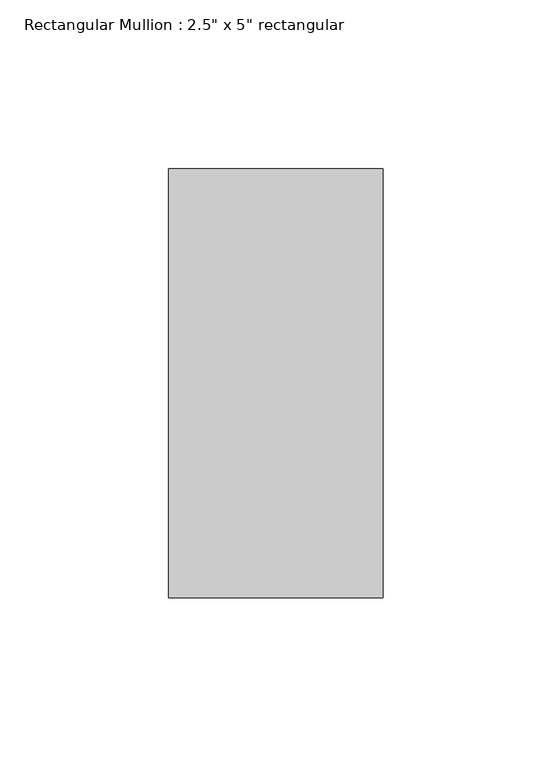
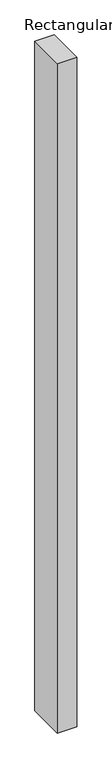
"""IFC4 building model written with IfcOpenShell, lengths in millimetres: member geometry."""

from ifc_helpers import new_model, si_unit, frame, origin, place, context, project, spatial, polyline, outline, extrude, source, transform, mapped, element, save


def member_6adc840d(model_context):
    return source(origin(), model_context, "Body", "SweptSolid", [
        extrude(outline(polyline([(31.75, 63.5), (31.75, -63.5), (-31.75, -63.5), (-31.75, 63.5), (31.75, 63.5)])), frame((0.0, 0.0, -2320.960728), z_axis=(0.0, 0.0, 1.0), x_axis=(1.0, 0.0, 0.0)), (0.0, 0.0, 1.0), 2320.960728),
    ])


if __name__ == "__main__":
    model = new_model("IFC4")
    model_context = context("Model", 3, world=origin())
    ifc_project = project(units=[si_unit("LENGTHUNIT", "METRE", prefix="MILLI")], contexts=[model_context])
    site = spatial("IfcSite", under=ifc_project)
    building = spatial("IfcBuilding", under=site)
    placement = place(None, origin())
    member_shape = member_6adc840d(model_context)
    element("IfcMember", 1, ObjectType="Rectangular Mullion : 2.5\" x 5\" rectangular", at=placement, inside=building, context=model_context, shape_type="MappedRepresentation", body=[
        mapped(member_shape, transform((0.0, 0.0, 0.0), x_axis=(1.0, 0.0, 0.0), y_axis=(0.0, 1.0, 0.0), z_axis=(0.0, 0.0, 1.0))),
    ])
    save(model, "model.ifc")
